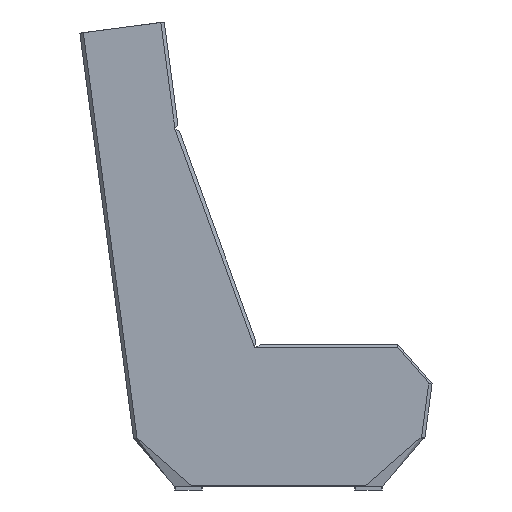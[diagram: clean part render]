
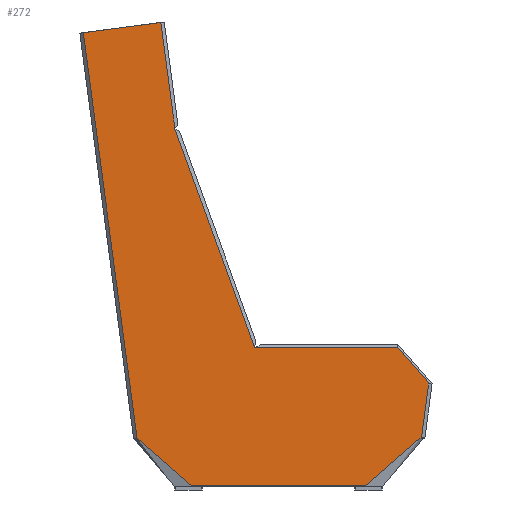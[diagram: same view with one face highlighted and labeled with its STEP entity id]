
A CAD part, left-side view. The second image highlights one B-rep face of the part: STEP entity #272.
In plain terms, the highlighted planar face has unit normal (-1, 0, 0).
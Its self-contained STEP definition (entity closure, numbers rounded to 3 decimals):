
#272=ADVANCED_FACE('',(#533),#3546,.T.);
#533=FACE_OUTER_BOUND('',#794,.T.);
#794=EDGE_LOOP('',(#1361,#1362,#1363,#1364,#1365,#1366,#1367,#1368,#1369,
#1370,#1371));
#1361=ORIENTED_EDGE('',*,*,#2323,.F.);
#1362=ORIENTED_EDGE('',*,*,#2324,.F.);
#1363=ORIENTED_EDGE('',*,*,#2329,.F.);
#1364=ORIENTED_EDGE('',*,*,#2328,.F.);
#1365=ORIENTED_EDGE('',*,*,#2325,.F.);
#1366=ORIENTED_EDGE('',*,*,#2338,.F.);
#1367=ORIENTED_EDGE('',*,*,#2344,.F.);
#1368=ORIENTED_EDGE('',*,*,#2354,.F.);
#1369=ORIENTED_EDGE('',*,*,#2327,.F.);
#1370=ORIENTED_EDGE('',*,*,#2326,.F.);
#1371=ORIENTED_EDGE('',*,*,#2322,.F.);
#2322=EDGE_CURVE('',#3298,#3323,#2867,.T.);
#2323=EDGE_CURVE('',#3299,#3298,#2868,.T.);
#2324=EDGE_CURVE('',#3300,#3299,#2869,.T.);
#2325=EDGE_CURVE('',#3301,#3316,#2870,.T.);
#2326=EDGE_CURVE('',#3323,#3322,#2871,.T.);
#2327=EDGE_CURVE('',#3322,#3320,#2872,.T.);
#2328=EDGE_CURVE('',#3316,#3325,#2873,.T.);
#2329=EDGE_CURVE('',#3325,#3300,#2874,.T.);
#2338=EDGE_CURVE('',#3302,#3301,#2877,.T.);
#2344=EDGE_CURVE('',#3314,#3302,#2879,.T.);
#2354=EDGE_CURVE('',#3320,#3314,#2884,.T.);
#2867=(
BOUNDED_CURVE()
B_SPLINE_CURVE(2,(#7138,#7139,#7140),.UNSPECIFIED.,.F.,.F.)
B_SPLINE_CURVE_WITH_KNOTS((3,3),(3462.42,3966.545),
 .UNSPECIFIED.)
CURVE()
GEOMETRIC_REPRESENTATION_ITEM()
RATIONAL_B_SPLINE_CURVE((1.,1.,1.))
REPRESENTATION_ITEM('')
);
#2868=(
BOUNDED_CURVE()
B_SPLINE_CURVE(2,(#7141,#7142,#7143),.UNSPECIFIED.,.F.,.F.)
B_SPLINE_CURVE_WITH_KNOTS((3,3),(6430.074,6671.83),
 .UNSPECIFIED.)
CURVE()
GEOMETRIC_REPRESENTATION_ITEM()
RATIONAL_B_SPLINE_CURVE((1.,0.752,1.))
REPRESENTATION_ITEM('')
);
#2869=(
BOUNDED_CURVE()
B_SPLINE_CURVE(2,(#7144,#7145,#7146),.UNSPECIFIED.,.F.,.F.)
B_SPLINE_CURVE_WITH_KNOTS((3,3),(6423.469,6430.074),
 .UNSPECIFIED.)
CURVE()
GEOMETRIC_REPRESENTATION_ITEM()
RATIONAL_B_SPLINE_CURVE((1.,1.,1.))
REPRESENTATION_ITEM('')
);
#2870=(
BOUNDED_CURVE()
B_SPLINE_CURVE(2,(#7147,#7148,#7149),.UNSPECIFIED.,.F.,.F.)
B_SPLINE_CURVE_WITH_KNOTS((3,3),(6087.553,6094.554),
 .UNSPECIFIED.)
CURVE()
GEOMETRIC_REPRESENTATION_ITEM()
RATIONAL_B_SPLINE_CURVE((1.,1.,1.))
REPRESENTATION_ITEM('')
);
#2871=(
BOUNDED_CURVE()
B_SPLINE_CURVE(2,(#7150,#7151,#7152),.UNSPECIFIED.,.F.,.F.)
B_SPLINE_CURVE_WITH_KNOTS((3,3),(3966.545,4208.301),
 .UNSPECIFIED.)
CURVE()
GEOMETRIC_REPRESENTATION_ITEM()
RATIONAL_B_SPLINE_CURVE((1.,0.752,1.))
REPRESENTATION_ITEM('')
);
#2872=(
BOUNDED_CURVE()
B_SPLINE_CURVE(2,(#7153,#7154,#7155),.UNSPECIFIED.,.F.,.F.)
B_SPLINE_CURVE_WITH_KNOTS((3,3),(4208.301,5390.462),
 .UNSPECIFIED.)
CURVE()
GEOMETRIC_REPRESENTATION_ITEM()
RATIONAL_B_SPLINE_CURVE((1.,1.,1.))
REPRESENTATION_ITEM('')
);
#2873=(
BOUNDED_CURVE()
B_SPLINE_CURVE(2,(#7156,#7157,#7158,#7159,#7160),.UNSPECIFIED.,.F.,.F.)
B_SPLINE_CURVE_WITH_KNOTS((3,2,3),(6094.554,6179.682,6264.811),
 .UNSPECIFIED.)
CURVE()
GEOMETRIC_REPRESENTATION_ITEM()
RATIONAL_B_SPLINE_CURVE((1.,0.911,1.,0.911,1.))
REPRESENTATION_ITEM('')
);
#2874=(
BOUNDED_CURVE()
B_SPLINE_CURVE(2,(#7161,#7162,#7163),.UNSPECIFIED.,.F.,.F.)
B_SPLINE_CURVE_WITH_KNOTS((3,3),(6264.811,6423.469),
 .UNSPECIFIED.)
CURVE()
GEOMETRIC_REPRESENTATION_ITEM()
RATIONAL_B_SPLINE_CURVE((1.,1.,1.))
REPRESENTATION_ITEM('')
);
#2877=(
BOUNDED_CURVE()
B_SPLINE_CURVE(1,(#7210,#7211),.UNSPECIFIED.,.F.,.F.)
B_SPLINE_CURVE_WITH_KNOTS((2,2),(-665.458,7.001),
 .UNSPECIFIED.)
CURVE()
GEOMETRIC_REPRESENTATION_ITEM()
RATIONAL_B_SPLINE_CURVE((1.,1.))
REPRESENTATION_ITEM('')
);
#2879=(
BOUNDED_CURVE()
B_SPLINE_CURVE(1,(#7279,#7280),.UNSPECIFIED.,.F.,.F.)
B_SPLINE_CURVE_WITH_KNOTS((2,2),(-309.584,1.092),
 .UNSPECIFIED.)
CURVE()
GEOMETRIC_REPRESENTATION_ITEM()
RATIONAL_B_SPLINE_CURVE((1.,1.))
REPRESENTATION_ITEM('')
);
#2884=(
BOUNDED_CURVE()
B_SPLINE_CURVE(3,(#7344,#7345,#7346,#7347,#7348,#7349,#7350,#7351,#7352,
#7353,#7354,#7355,#7356,#7357,#7358),.UNSPECIFIED.,.F.,.F.)
B_SPLINE_CURVE_WITH_KNOTS((4,1,1,1,1,1,1,1,1,1,1,1,4),(-354.993,
-327.316,-299.64,-282.942,-266.245,
-232.85,-205.173,-177.497,-149.82,
-122.143,-88.748,-55.353,0.),
 .UNSPECIFIED.)
CURVE()
GEOMETRIC_REPRESENTATION_ITEM()
RATIONAL_B_SPLINE_CURVE((1.,1.,1.,1.,1.,1.,1.,1.,1.,1.,
1.,1.,1.,1.,1.))
REPRESENTATION_ITEM('')
);
#3298=VERTEX_POINT('',#7010);
#3299=VERTEX_POINT('',#7011);
#3300=VERTEX_POINT('',#7012);
#3301=VERTEX_POINT('',#7013);
#3302=VERTEX_POINT('',#7014);
#3314=VERTEX_POINT('',#7026);
#3316=VERTEX_POINT('',#7028);
#3320=VERTEX_POINT('',#7032);
#3322=VERTEX_POINT('',#7034);
#3323=VERTEX_POINT('',#7035);
#3325=VERTEX_POINT('',#7037);
#3546=PLANE('',#3862);
#3862=AXIS2_PLACEMENT_3D('',#6068,#3915,$);
#3915=DIRECTION('',(-1.,0.,0.));
#6068=CARTESIAN_POINT('',(-1125.,-449.433,-2.509));
#7010=CARTESIAN_POINT('',(-1125.,-252.063,12.));
#7011=CARTESIAN_POINT('',(-1125.,-408.693,149.24));
#7012=CARTESIAN_POINT('',(-1125.,-413.044,151.892));
#7013=CARTESIAN_POINT('',(-1125.,69.053,411.));
#7014=CARTESIAN_POINT('',(-1125.,299.157,1042.865));
#7026=CARTESIAN_POINT('',(-1125.,339.977,1350.847));
#7028=CARTESIAN_POINT('',(-1125.,-344.671,411.));
#7032=CARTESIAN_POINT('',(-1125.,564.017,1321.153));
#7034=CARTESIAN_POINT('',(-1125.,408.693,149.24));
#7035=CARTESIAN_POINT('',(-1125.,252.062,12.));
#7037=CARTESIAN_POINT('',(-1125.,-433.891,309.175));
#7138=CARTESIAN_POINT('',(-1125.,-252.063,12.));
#7139=CARTESIAN_POINT('',(-1125.,0.,12.));
#7140=CARTESIAN_POINT('',(-1125.,252.062,12.));
#7141=CARTESIAN_POINT('',(-1125.,-408.693,149.24));
#7142=CARTESIAN_POINT('',(-1125.,-390.503,12.));
#7143=CARTESIAN_POINT('',(-1125.,-252.063,12.));
#7144=CARTESIAN_POINT('',(-1125.,-413.044,151.892));
#7145=CARTESIAN_POINT('',(-1125.,-413.044,149.05));
#7146=CARTESIAN_POINT('',(-1125.,-408.693,149.24));
#7147=CARTESIAN_POINT('',(-1125.,69.053,411.));
#7148=CARTESIAN_POINT('',(-1125.,-137.809,411.));
#7149=CARTESIAN_POINT('',(-1125.,-344.671,411.));
#7150=CARTESIAN_POINT('',(-1125.,252.062,12.));
#7151=CARTESIAN_POINT('',(-1125.,390.503,12.));
#7152=CARTESIAN_POINT('',(-1125.,408.693,149.24));
#7153=CARTESIAN_POINT('',(-1125.,408.693,149.24));
#7154=CARTESIAN_POINT('',(-1125.,486.355,735.197));
#7155=CARTESIAN_POINT('',(-1125.,564.017,1321.153));
#7156=CARTESIAN_POINT('',(-1125.,-344.671,411.));
#7157=CARTESIAN_POINT('',(-1125.,-385.473,411.));
#7158=CARTESIAN_POINT('',(-1125.,-412.362,380.312));
#7159=CARTESIAN_POINT('',(-1125.,-439.252,349.623));
#7160=CARTESIAN_POINT('',(-1125.,-433.891,309.175));
#7161=CARTESIAN_POINT('',(-1125.,-433.891,309.175));
#7162=CARTESIAN_POINT('',(-1125.,-423.467,230.533));
#7163=CARTESIAN_POINT('',(-1125.,-413.044,151.892));
#7210=CARTESIAN_POINT('',(-1125.,299.157,1042.865));
#7211=CARTESIAN_POINT('',(-1125.,69.053,411.));
#7279=CARTESIAN_POINT('',(-1125.,339.977,1350.847));
#7280=CARTESIAN_POINT('',(-1125.,299.157,1042.865));
#7344=CARTESIAN_POINT('',(-1125.,564.017,1321.153));
#7345=CARTESIAN_POINT('',(-1125.,565.231,1330.299));
#7346=CARTESIAN_POINT('',(-1125.,565.402,1348.887));
#7347=CARTESIAN_POINT('',(-1125.,559.755,1372.419));
#7348=CARTESIAN_POINT('',(-1125.,551.203,1390.953));
#7349=CARTESIAN_POINT('',(-1125.,538.98,1409.635));
#7350=CARTESIAN_POINT('',(-1125.,520.153,1427.867));
#7351=CARTESIAN_POINT('',(-1125.,493.984,1442.132));
#7352=CARTESIAN_POINT('',(-1125.,466.992,1449.149));
#7353=CARTESIAN_POINT('',(-1125.,439.112,1449.402));
#7354=CARTESIAN_POINT('',(-1125.,410.12,1442.455));
#7355=CARTESIAN_POINT('',(-1125.,382.283,1427.018));
#7356=CARTESIAN_POINT('',(-1125.,353.626,1397.471));
#7357=CARTESIAN_POINT('',(-1125.,342.37,1369.145));
#7358=CARTESIAN_POINT('',(-1125.,339.977,1350.847));
